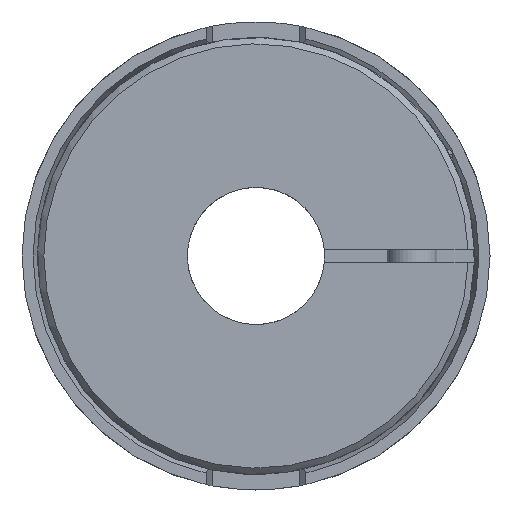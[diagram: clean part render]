
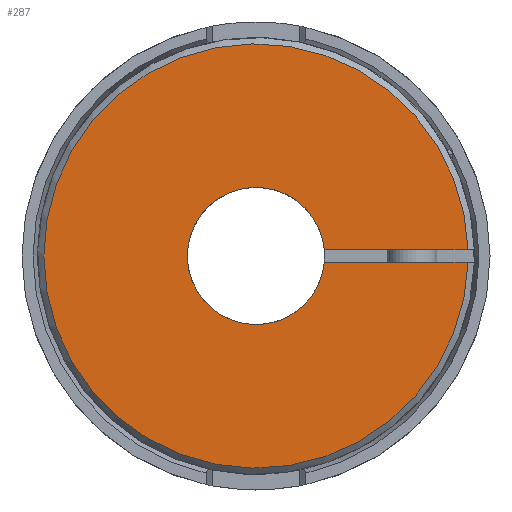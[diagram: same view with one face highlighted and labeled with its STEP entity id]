
A CAD part, left-side view. The second image highlights one B-rep face of the part: STEP entity #287.
In plain terms, the highlighted planar face has unit normal (-1, 0, 0).
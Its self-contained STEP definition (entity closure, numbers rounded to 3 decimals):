
#287 = ADVANCED_FACE( '', ( #667 ), #668, .T. );
#667 = FACE_OUTER_BOUND( '', #1146, .T. );
#668 = PLANE( '', #1147 );
#1146 = EDGE_LOOP( '', ( #1906, #1907, #1908, #1909 ) );
#1147 = AXIS2_PLACEMENT_3D( '', #1910, #1911, #1912 );
#1906 = ORIENTED_EDGE( '', *, *, #2636, .F. );
#1907 = ORIENTED_EDGE( '', *, *, #2520, .T. );
#1908 = ORIENTED_EDGE( '', *, *, #2690, .F. );
#1909 = ORIENTED_EDGE( '', *, *, #2691, .T. );
#1910 = CARTESIAN_POINT( '', ( -52.25, 0., 6. ) );
#1911 = DIRECTION( '', ( -1., 0., 0. ) );
#1912 = DIRECTION( '', ( 0., 0., 1. ) );
#2520 = EDGE_CURVE( '', #2976, #2974, #2977, .F. );
#2636 = EDGE_CURVE( '', #2976, #3155, #3156, .T. );
#2690 = EDGE_CURVE( '', #3236, #2974, #3237, .T. );
#2691 = EDGE_CURVE( '', #3236, #3155, #3238, .T. );
#2974 = VERTEX_POINT( '', #3574 );
#2976 = VERTEX_POINT( '', #3577 );
#2977 = CIRCLE( '', #3578, 11. );
#3155 = VERTEX_POINT( '', #3799 );
#3156 = LINE( '', #3800, #3801 );
#3236 = VERTEX_POINT( '', #4136 );
#3237 = LINE( '', #4137, #4138 );
#3238 = CIRCLE( '', #4139, 34. );
#3574 = CARTESIAN_POINT( '', ( -52.25, -10.954, 1. ) );
#3577 = CARTESIAN_POINT( '', ( -52.25, -10.954, -1. ) );
#3578 = AXIS2_PLACEMENT_3D( '', #4592, #4593, #4594 );
#3799 = CARTESIAN_POINT( '', ( -52.25, -33.985, -1. ) );
#3800 = CARTESIAN_POINT( '', ( -52.25, -4., -1. ) );
#3801 = VECTOR( '', #4764, 1000. );
#4136 = CARTESIAN_POINT( '', ( -52.25, -33.985, 1. ) );
#4137 = CARTESIAN_POINT( '', ( -52.25, -36., 1. ) );
#4138 = VECTOR( '', #4824, 1000. );
#4139 = AXIS2_PLACEMENT_3D( '', #4825, #4826, #4827 );
#4592 = CARTESIAN_POINT( '', ( -52.25, 0., 0. ) );
#4593 = DIRECTION( '', ( -1., 0., 0. ) );
#4594 = DIRECTION( '', ( 0., 0., 1. ) );
#4764 = DIRECTION( '', ( 0., -1., 0. ) );
#4824 = DIRECTION( '', ( 0., 1., 0. ) );
#4825 = CARTESIAN_POINT( '', ( -52.25, 0., 0. ) );
#4826 = DIRECTION( '', ( -1., 0., 0. ) );
#4827 = DIRECTION( '', ( 0., 0., 1. ) );
